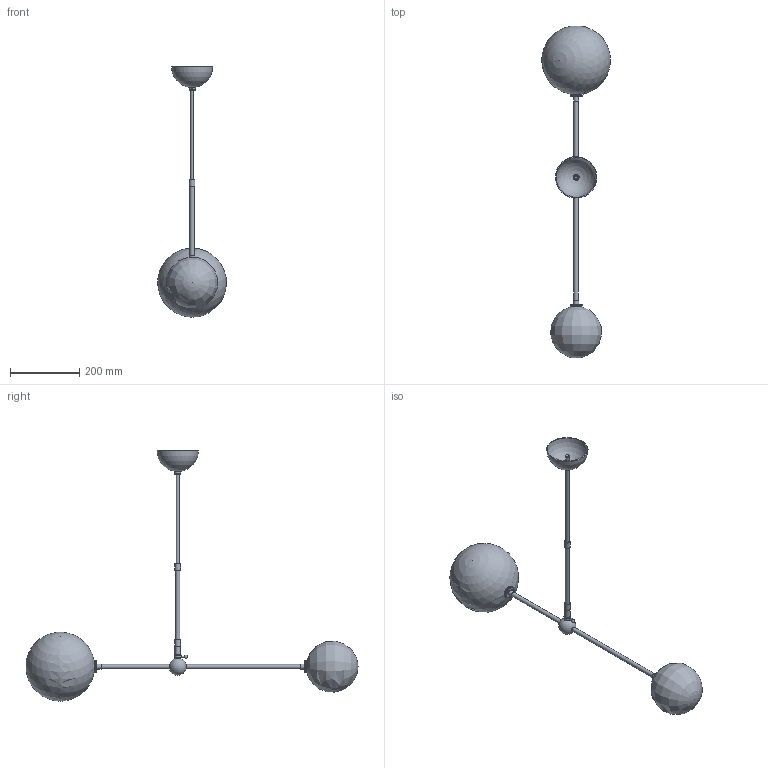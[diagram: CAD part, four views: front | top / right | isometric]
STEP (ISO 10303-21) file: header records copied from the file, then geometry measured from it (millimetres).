
FILE_DESCRIPTION(/* description */ (''),/* implementation_level */ '2;1');
FILE_NAME(/* name */ 'T:\B066 Balance 200 x 150 Pendant\Pliki bryłowe handlowe\B066 Balance 200 x 150 3D files\B066 Balance 150 x 200.stp',/* time_stamp */ '2022-01-18T13:10:21+01:00',/* author */ ('Mariusz Awariusz'),/* organization */ (''),/* preprocessor_version */ 'ST-DEVELOPER v18.1',/* originating_system */ 'Autodesk Inventor 2022',/* authorisation */ '');
FILE_SCHEMA (('AUTOMOTIVE_DESIGN { 1 0 10303 214 3 1 1 }'));
Length unit declared in the file: millimetre
Products named in the file (1): B066 Balance 150 x 200 UL V3_jako część
Bounding box: 199.08 x 962.17 x 725.49 mm (x, y, z)
Volume: 640890.5 mm3; surface area: 490203.4 mm2
Topology: 2 solids, 5 shells, 146 faces, 297 edges, 187 vertices
Faces by surface type: plane 53, cylinder 50, cone 29, sphere 7, torus 4, bspline 3
Full cylindrical faces by diameter (mm): 2.693 x3, 3 x13, 4 x3, 5.5 x3, 8.6 x1, 10 x5, 11.6 x1, 11.917 x1, 12.917 x1, 13 x6, 15 x2, 16 x3, 18 x1, 20 x1, 25 x1, 25.221 x1, 33 x2, 35 x2
Entity records: 4314 total; most frequent: CARTESIAN_POINT 1105, DIRECTION 734, ORIENTED_EDGE 578, AXIS2_PLACEMENT_3D 325, EDGE_CURVE 289, EDGE_LOOP 192, VERTEX_POINT 187, CIRCLE 181
